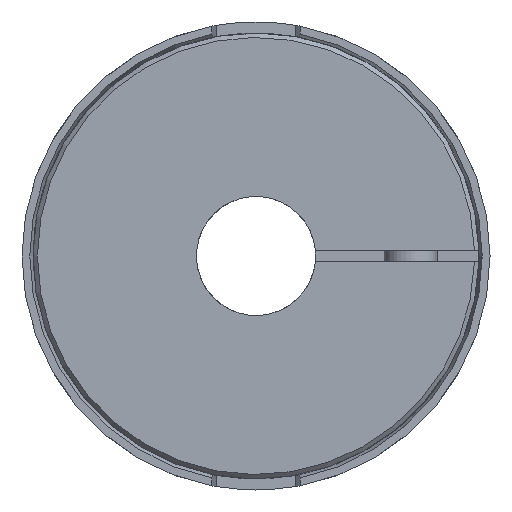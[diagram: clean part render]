
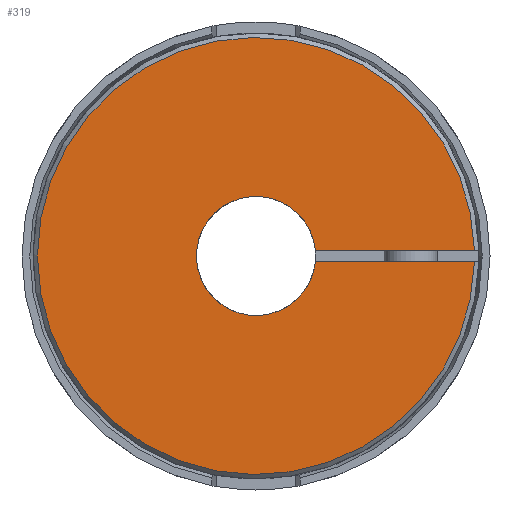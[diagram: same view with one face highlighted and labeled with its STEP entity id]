
A CAD part, left-side view. The second image highlights one B-rep face of the part: STEP entity #319.
In plain terms, the highlighted planar face has unit normal (-1, 0, 0).
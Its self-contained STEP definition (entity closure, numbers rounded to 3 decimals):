
#319 = ADVANCED_FACE( '', ( #733 ), #734, .T. );
#733 = FACE_OUTER_BOUND( '', #1220, .T. );
#734 = PLANE( '', #1221 );
#1220 = EDGE_LOOP( '', ( #2038, #2039, #2040, #2041 ) );
#1221 = AXIS2_PLACEMENT_3D( '', #2042, #2043, #2044 );
#2038 = ORIENTED_EDGE( '', *, *, #2757, .F. );
#2039 = ORIENTED_EDGE( '', *, *, #2758, .T. );
#2040 = ORIENTED_EDGE( '', *, *, #2644, .F. );
#2041 = ORIENTED_EDGE( '', *, *, #2571, .T. );
#2042 = CARTESIAN_POINT( '', ( -68.501, 0., 12. ) );
#2043 = DIRECTION( '', ( -1., 0., 0. ) );
#2044 = DIRECTION( '', ( 0., 0., 1. ) );
#2571 = EDGE_CURVE( '', #3036, #3038, #3040, .T. );
#2644 = EDGE_CURVE( '', #3036, #3150, #3153, .T. );
#2757 = EDGE_CURVE( '', #3313, #3038, #3314, .T. );
#2758 = EDGE_CURVE( '', #3313, #3150, #3315, .F. );
#3036 = VERTEX_POINT( '', #3811 );
#3038 = VERTEX_POINT( '', #3814 );
#3040 = CIRCLE( '', #3817, 49.5 );
#3150 = VERTEX_POINT( '', #4129 );
#3153 = LINE( '', #4134, #4135 );
#3313 = VERTEX_POINT( '', #4405 );
#3314 = LINE( '', #4406, #4407 );
#3315 = CIRCLE( '', #4408, 13.5 );
#3811 = CARTESIAN_POINT( '', ( -68.501, -49.485, 1.2 ) );
#3814 = CARTESIAN_POINT( '', ( -68.501, -49.485, -1.2 ) );
#3817 = AXIS2_PLACEMENT_3D( '', #4700, #4701, #4702 );
#4129 = CARTESIAN_POINT( '', ( -68.501, -13.447, 1.2 ) );
#4134 = CARTESIAN_POINT( '', ( -68.501, -55., 1.2 ) );
#4135 = VECTOR( '', #4814, 1000. );
#4405 = CARTESIAN_POINT( '', ( -68.501, -13.447, -1.2 ) );
#4406 = CARTESIAN_POINT( '', ( -68.501, -6., -1.2 ) );
#4407 = VECTOR( '', #4964, 1000. );
#4408 = AXIS2_PLACEMENT_3D( '', #4965, #4966, #4967 );
#4700 = CARTESIAN_POINT( '', ( -68.501, 0., 0. ) );
#4701 = DIRECTION( '', ( -1., 0., 0. ) );
#4702 = DIRECTION( '', ( 0., 0., 1. ) );
#4814 = DIRECTION( '', ( 0., 1., 0. ) );
#4964 = DIRECTION( '', ( 0., -1., 0. ) );
#4965 = CARTESIAN_POINT( '', ( -68.501, 0., 0. ) );
#4966 = DIRECTION( '', ( -1., 0., 0. ) );
#4967 = DIRECTION( '', ( 0., 0., 1. ) );
